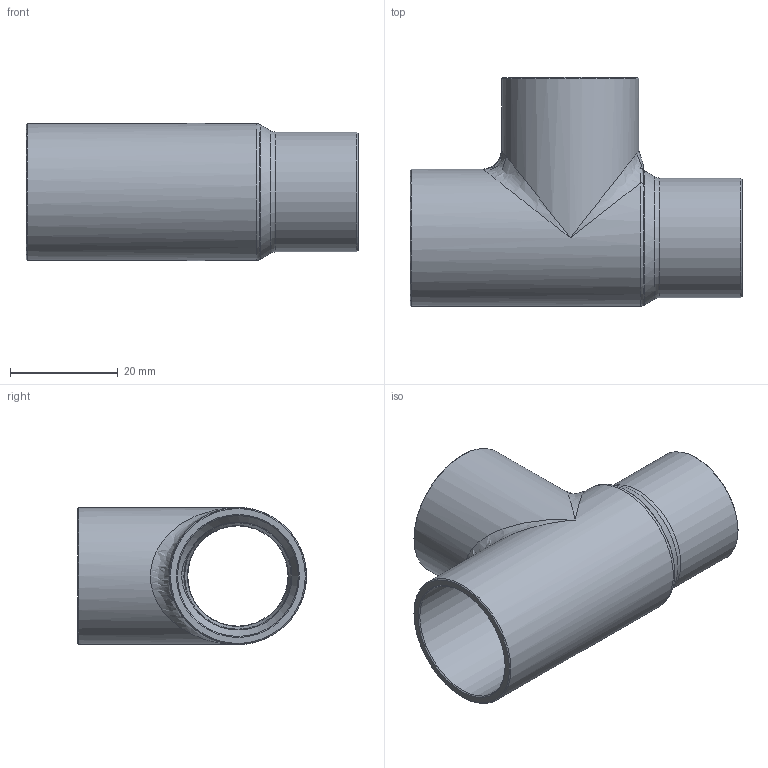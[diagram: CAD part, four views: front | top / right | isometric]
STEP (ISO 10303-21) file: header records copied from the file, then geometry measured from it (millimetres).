
FILE_DESCRIPTION((''),'2;1');
FILE_NAME('G:\SANHA-Ternat\Technik\Management\Bouwmaten + markeringen\z-maattekeningen 3D\29000s\29130787834_3d.stp','2017-08-01T11:32:36',('vdvijverd'),(''),'Autodesk Inventor 2009','Autodesk Inventor 2009','');
FILE_SCHEMA(('AUTOMOTIVE_DESIGN { 1 0 10303 214 1 1 1 1 }'));
Length unit declared in the file: millimetre
Products named in the file (1): 29130787834_3d
Bounding box: 61.5 x 42.4 x 25.4 mm (x, y, z)
Volume: 10532 mm3; surface area: 11247.2 mm2
Topology: 1 solids, 1 shells, 35 faces, 86 edges, 48 vertices
Faces by surface type: cone 10, cylinder 9, bspline 8, plane 4, torus 4
Full cylindrical faces by diameter (mm): 19.17 x1, 20 x1, 22.17 x1, 22.375 x2, 25.4 x2
Entity records: 2397 total; most frequent: CARTESIAN_POINT 1733, DIRECTION 132, ORIENTED_EDGE 104, AXIS2_PLACEMENT_3D 66, EDGE_LOOP 60, EDGE_CURVE 52, VERTEX_POINT 40, FACE_OUTER_BOUND 35
